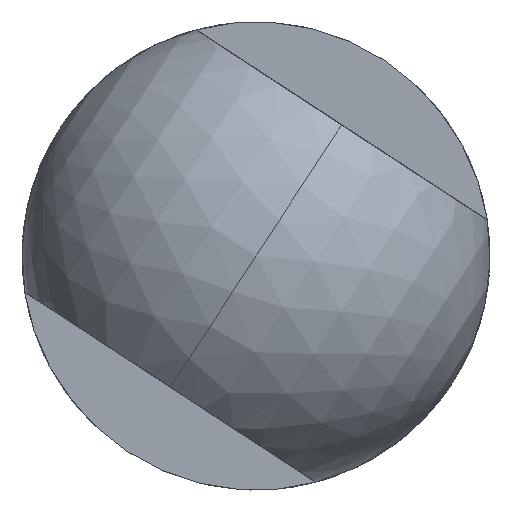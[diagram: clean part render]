
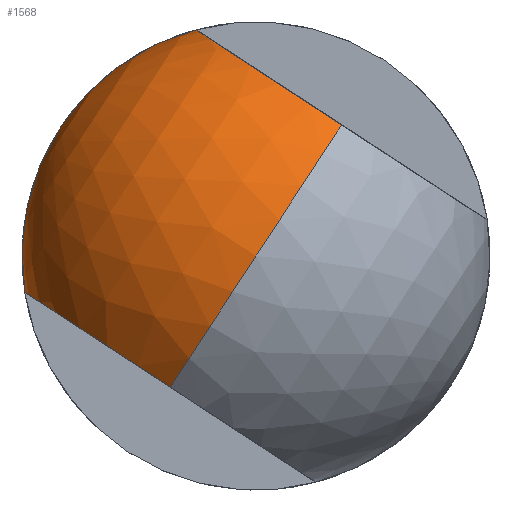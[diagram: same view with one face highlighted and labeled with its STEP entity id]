
A CAD part, front view. The second image highlights one B-rep face of the part: STEP entity #1568.
In plain terms, the highlighted spherical face has radius 6.35 mm.
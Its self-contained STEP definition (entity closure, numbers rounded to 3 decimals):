
#92 = CARTESIAN_POINT ( 'NONE',  ( 0., 0., 78.65 ) ) ;
#111 = AXIS2_PLACEMENT_3D ( 'NONE', #2325, #1843, #2107 ) ;
#140 = EDGE_CURVE ( 'NONE', #3016, #2664, #2366, .T. ) ;
#195 = DIRECTION ( 'NONE',  ( 0., 0., -1. ) ) ;
#346 = DIRECTION ( 'NONE',  ( 0., -1., 0. ) ) ;
#381 = DIRECTION ( 'NONE',  ( 0., 0., -1. ) ) ;
#459 = DIRECTION ( 'NONE',  ( -1., 0., 0. ) ) ;
#606 = EDGE_LOOP ( 'NONE', ( #712, #1087, #2313, #2321, #948 ) ) ;
#622 = CARTESIAN_POINT ( 'NONE',  ( -4.25, 0., 78.65 ) ) ;
#668 = CARTESIAN_POINT ( 'NONE',  ( 0., 0., 78.65 ) ) ;
#687 = VERTEX_POINT ( 'NONE', #2521 ) ;
#707 = CARTESIAN_POINT ( 'NONE',  ( 4.25, 0., 78.65 ) ) ;
#712 = ORIENTED_EDGE ( 'NONE', *, *, #1351, .F. ) ;
#717 = FACE_OUTER_BOUND ( 'NONE', #606, .T. ) ;
#774 = CARTESIAN_POINT ( 'NONE',  ( 0., 0., 85. ) ) ;
#775 = EDGE_CURVE ( 'NONE', #1677, #2945, #2065, .T. ) ;
#781 = CARTESIAN_POINT ( 'NONE',  ( -4.25, 0., 83.368 ) ) ;
#899 = EDGE_CURVE ( 'NONE', #687, #3016, #2952, .T. ) ;
#948 = ORIENTED_EDGE ( 'NONE', *, *, #899, .F. ) ;
#1087 = ORIENTED_EDGE ( 'NONE', *, *, #775, .T. ) ;
#1254 = DIRECTION ( 'NONE',  ( 1., 0., 0. ) ) ;
#1313 = DIRECTION ( 'NONE',  ( 0., 0., 1. ) ) ;
#1351 = EDGE_CURVE ( 'NONE', #1677, #687, #1397, .T. ) ;
#1397 = CIRCLE ( 'NONE', #1746, 4.718 ) ;
#1568 = ADVANCED_FACE ( 'NONE', ( #717 ), #1878, .T. ) ;
#1677 = VERTEX_POINT ( 'NONE', #781 ) ;
#1746 = AXIS2_PLACEMENT_3D ( 'NONE', #622, #3084, #1313 ) ;
#1843 = DIRECTION ( 'NONE',  ( 0., 1., 0. ) ) ;
#1878 = SPHERICAL_SURFACE ( 'NONE', #2698, 6.35 ) ;
#2065 = CIRCLE ( 'NONE', #111, 6.35 ) ;
#2107 = DIRECTION ( 'NONE',  ( -1., 0., 0. ) ) ;
#2313 = ORIENTED_EDGE ( 'NONE', *, *, #3131, .F. ) ;
#2321 = ORIENTED_EDGE ( 'NONE', *, *, #140, .F. ) ;
#2325 = CARTESIAN_POINT ( 'NONE',  ( 0., 0., 78.65 ) ) ;
#2366 = CIRCLE ( 'NONE', #2990, 4.718 ) ;
#2389 = DIRECTION ( 'NONE',  ( 1., 0., 0. ) ) ;
#2478 = CARTESIAN_POINT ( 'NONE',  ( 4.25, 4.718, 78.65 ) ) ;
#2521 = CARTESIAN_POINT ( 'NONE',  ( -4.25, 4.718, 78.65 ) ) ;
#2664 = VERTEX_POINT ( 'NONE', #2817 ) ;
#2679 = CARTESIAN_POINT ( 'NONE',  ( 0., 0., 78.65 ) ) ;
#2698 = AXIS2_PLACEMENT_3D ( 'NONE', #668, #2923, #2389 ) ;
#2746 = AXIS2_PLACEMENT_3D ( 'NONE', #2679, #195, #459 ) ;
#2807 = AXIS2_PLACEMENT_3D ( 'NONE', #92, #346, #381 ) ;
#2817 = CARTESIAN_POINT ( 'NONE',  ( 4.25, 0., 83.368 ) ) ;
#2923 = DIRECTION ( 'NONE',  ( 0., 1., 0. ) ) ;
#2945 = VERTEX_POINT ( 'NONE', #774 ) ;
#2952 = CIRCLE ( 'NONE', #2746, 6.35 ) ;
#2990 = AXIS2_PLACEMENT_3D ( 'NONE', #707, #1254, #3182 ) ;
#3016 = VERTEX_POINT ( 'NONE', #2478 ) ;
#3084 = DIRECTION ( 'NONE',  ( -1., 0., 0. ) ) ;
#3107 = CIRCLE ( 'NONE', #2807, 6.35 ) ;
#3131 = EDGE_CURVE ( 'NONE', #2664, #2945, #3107, .T. ) ;
#3182 = DIRECTION ( 'NONE',  ( 0., 0., -1. ) ) ;
